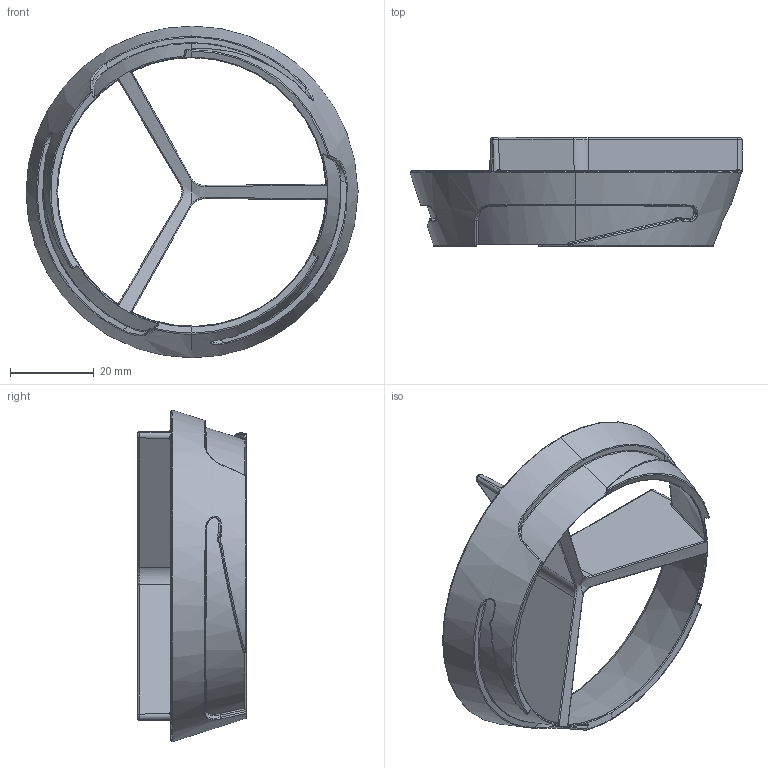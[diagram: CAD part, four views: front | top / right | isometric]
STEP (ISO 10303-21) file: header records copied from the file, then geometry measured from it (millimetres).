
FILE_DESCRIPTION (( 'STEP AP214' ), '1' );
FILE_NAME ('P-01014 - Sink Mount Finger Guard - v2.2.6.STEP', '2026-06-12T21:55:21', ( '' ), ( '' ), 'SwSTEP 2.0', 'SolidWorks 2023', '' );
FILE_SCHEMA (( 'AUTOMOTIVE_DESIGN' ));
Length unit declared in the file: inch
Products named in the file (1): P-01014 - Sink Mount Finger Guard - v2.2.6
Bounding box: 79.12 x 25.94 x 79.05 mm (x, y, z)
Volume: 12411.2 mm3; surface area: 14201.2 mm2
Topology: 1 solids, 1 shells, 222 faces, 563 edges, 330 vertices
Faces by surface type: bspline 130, cylinder 27, plane 25, torus 20, cone 20
Entity records: 13799 total; most frequent: CARTESIAN_POINT 9633, ORIENTED_EDGE 1110, EDGE_CURVE 555, DIRECTION 554, VERTEX_POINT 330, B_SPLINE_CURVE_WITH_KNOTS 300, AXIS2_PLACEMENT_3D 245, EDGE_LOOP 223
